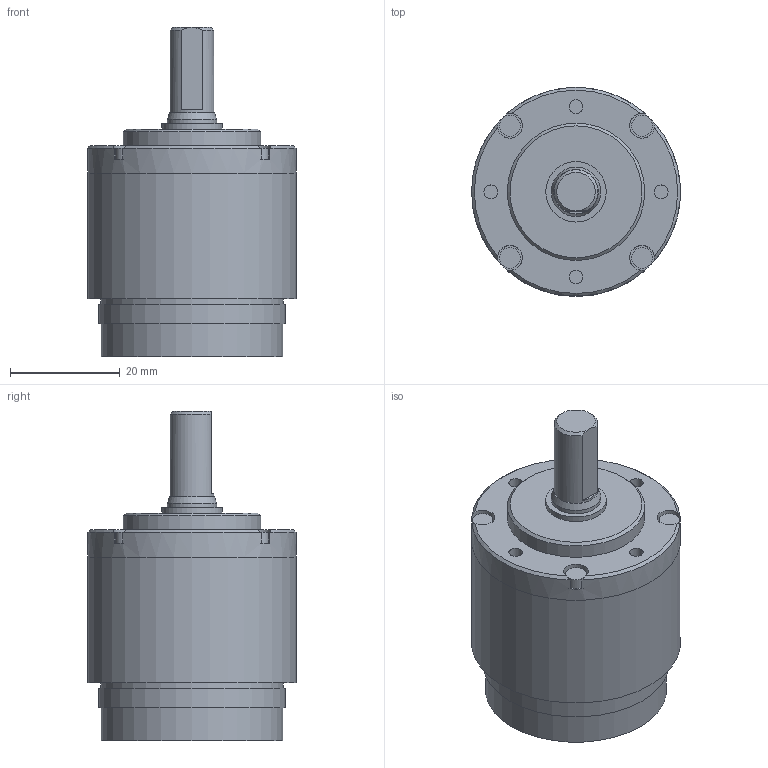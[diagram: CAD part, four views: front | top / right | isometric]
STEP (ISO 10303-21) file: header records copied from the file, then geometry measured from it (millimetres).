
FILE_DESCRIPTION(/* description */ (''),/* implementation_level */ '2;1');
FILE_NAME(/* name */ '38-2_3.stp',/* time_stamp */ '2016-09-16T10:40:21+02:00',/* author */ ('DR. FRITZ FAULHABER GmbH & Co. KG'),/* organization */ ('DR. FRITZ FAULHABER GmbH & Co. KG'),/* preprocessor_version */ 'ST-DEVELOPER v16',/* originating_system */ 'SIEMENS PLM Software NX 10.0',/* authorisation */ '');
FILE_SCHEMA (('AUTOMOTIVE_DESIGN { 1 0 10303 214 3 1 1 1 }'));
Length unit declared in the file: millimetre
Products named in the file (1): huge19E82220l2oy
Bounding box: 38 x 38 x 59.9 mm (x, y, z)
Volume: 42495.7 mm3; surface area: 7988.4 mm2
Topology: 1 solids, 1 shells, 62 faces, 118 edges, 79 vertices
Faces by surface type: plane 29, cylinder 26, cone 7
Full cylindrical faces by diameter (mm): 2.5 x4, 3.8 x4, 8 x1, 9 x1, 11 x1, 11.8 x1, 12 x1, 25 x1, 26.9 x1, 27.57 x1, 33 x1, 33.2 x1, 34 x1, 37.99 x1, 38 x2
Entity records: 1468 total; most frequent: DIRECTION 271, CARTESIAN_POINT 257, ORIENTED_EDGE 176, AXIS2_PLACEMENT_3D 130, EDGE_LOOP 107, EDGE_CURVE 88, FACE_BOUND 86, VERTEX_POINT 73
